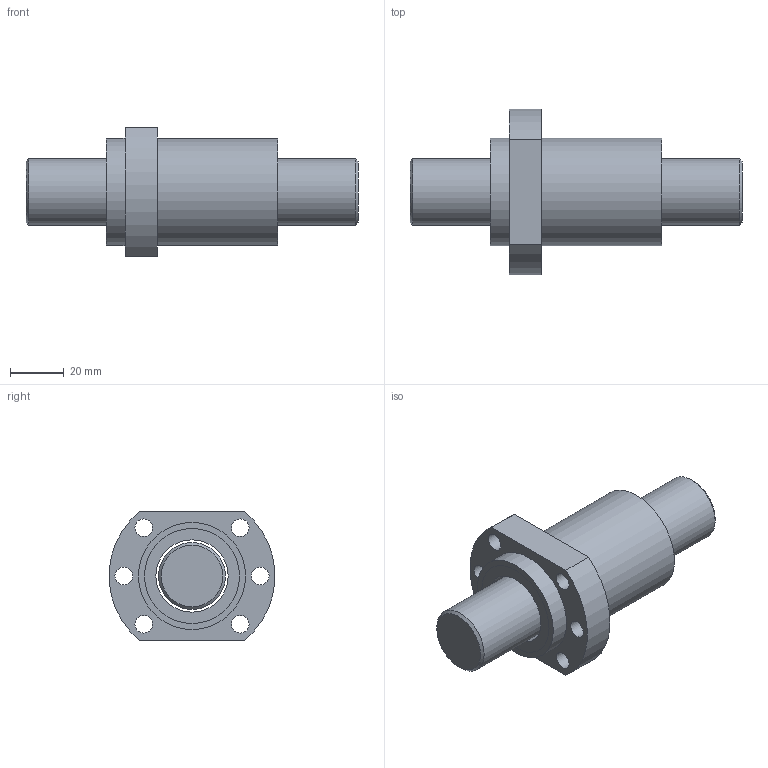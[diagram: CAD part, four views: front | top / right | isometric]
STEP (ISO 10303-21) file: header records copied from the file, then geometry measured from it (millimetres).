
FILE_DESCRIPTION(/* description */ (''),/* implementation_level */ '2;1');
FILE_NAME(/* name */ 'SFH2525-1.8.stp',/* time_stamp */ '2014-10-15T13:11:46+08:00',/* author */ (''),/* organization */ (''),/* preprocessor_version */ 'ST-DEVELOPER v11',/* originating_system */ 'SIEMENS UGS NX 6.0',/* authorisation */ '');
FILE_SCHEMA (('CONFIG_CONTROL_DESIGN'));
Length unit declared in the file: millimetre
Products named in the file (1): fannB1F9gmdt
Bounding box: 124 x 61.8 x 48 mm (x, y, z)
Volume: 118754 mm3; surface area: 35472.7 mm2
Topology: 4 solids, 4 shells, 50 faces, 90 edges, 60 vertices
Faces by surface type: cylinder 26, plane 22, cone 2
Full cylindrical faces by diameter (mm): 6.6 x6, 25 x1, 27 x3, 32 x4, 35.5 x4, 37 x4, 40 x2
Entity records: 1216 total; most frequent: DIRECTION 218, CARTESIAN_POINT 171, ORIENTED_EDGE 124, EDGE_LOOP 106, AXIS2_PLACEMENT_3D 105, FACE_BOUND 100, EDGE_CURVE 62, VERTEX_POINT 58
